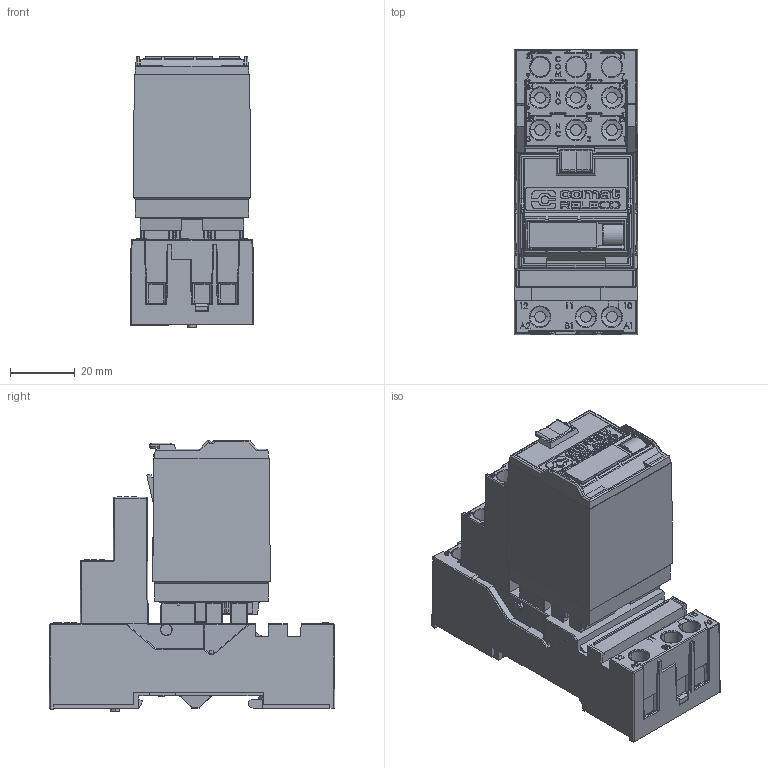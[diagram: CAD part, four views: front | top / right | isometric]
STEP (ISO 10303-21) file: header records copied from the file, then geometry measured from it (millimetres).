
FILE_DESCRIPTION(('Open CASCADE Model'),'2;1');
FILE_NAME('Open CASCADE Shape Model','2021-03-31T17:06:00',('Author'),( 'Open CASCADE'),'Open CASCADE STEP processor 7.6','Open CASCADE 7.6' ,'Unknown');
FILE_SCHEMA(('AUTOMOTIVE_DESIGN { 1 0 10303 214 1 1 1 1 }'));
Products named in the file (1): Open CASCADE STEP translator 7.6 1
Bounding box: 38 x 88 x 83.5 mm (x, y, z)
Surface area: 34530.7 mm2 (no closed solid volume)
Topology: 0 solids, 18 shells, 3228 faces, 8114 edges, 5059 vertices
Faces by surface type: plane 1700, bspline 787, cylinder 684, cone 57
Entity records: 338006 total; most frequent: CARTESIAN_POINT 192626, DIRECTION 20805, ORIENTED_EDGE 16188, PCURVE 16188, DEFINITIONAL_REPRESENTATION 16188, LINE 14772, VECTOR 14772, B_SPLINE_CURVE_WITH_KNOTS 8656
